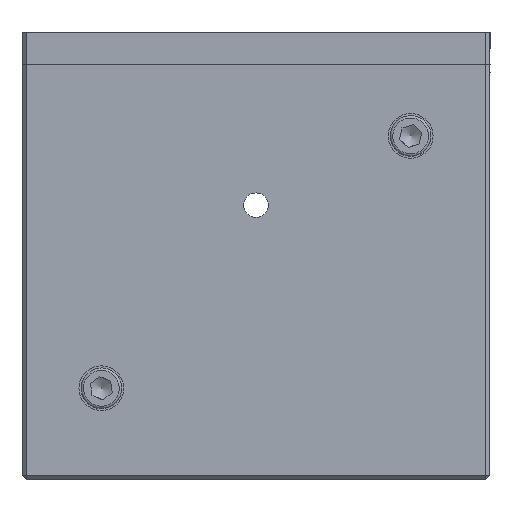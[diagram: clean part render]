
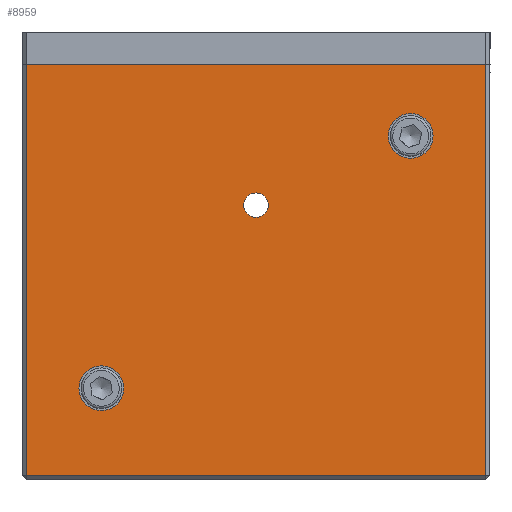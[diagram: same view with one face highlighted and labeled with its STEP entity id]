
A CAD part, front view. The second image highlights one B-rep face of the part: STEP entity #8959.
In plain terms, the highlighted free-form (B-spline) face has degree [1, 1] with [2, 2] control points.
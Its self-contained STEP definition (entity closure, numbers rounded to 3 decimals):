
#7239=CARTESIAN_POINT('',(45.,90.,19.5));
#7240=VERTEX_POINT('',#7239);
#7241=CARTESIAN_POINT('',(45.,84.5,19.5));
#7242=DIRECTION('',(-1.0,0.0,0.0));
#7243=DIRECTION('',(0.0,1.0,0.0));
#7244=AXIS2_PLACEMENT_3D('',#7241,#7242,#7243);
#7245=CIRCLE('',#7244,5.5);
#7246=EDGE_CURVE('',#7240,#7240,#7245,.T.);
#7308=CARTESIAN_POINT('',(45.0,28.,95.5));
#7309=VERTEX_POINT('',#7308);
#7310=CARTESIAN_POINT('',(45.0,22.5,95.5));
#7311=DIRECTION('',(-1.0,0.0,0.0));
#7312=DIRECTION('',(0.0,1.0,0.0));
#7313=AXIS2_PLACEMENT_3D('',#7310,#7311,#7312);
#7314=CIRCLE('',#7313,5.5);
#7315=EDGE_CURVE('',#7309,#7309,#7314,.T.);
#8748=CARTESIAN_POINT('',(45.,67.5,54.5));
#8749=VERTEX_POINT('',#8748);
#8750=CARTESIAN_POINT('',(45.,67.5,57.5));
#8751=DIRECTION('',(1.0,0.0,0.0));
#8752=DIRECTION('',(0.0,0.0,1.0));
#8753=AXIS2_PLACEMENT_3D('',#8750,#8751,#8752);
#8754=CIRCLE('',#8753,3.);
#8755=EDGE_CURVE('',#8749,#8749,#8754,.T.);
#8770=CARTESIAN_POINT('',(45.0,1.,114.0));
#8771=VERTEX_POINT('',#8770);
#8800=CARTESIAN_POINT('',(45.0,1.,1.0));
#8801=VERTEX_POINT('',#8800);
#8823=CARTESIAN_POINT('',(45.,102.,1.0));
#8824=VERTEX_POINT('',#8823);
#8831=CARTESIAN_POINT('',(45.0,1.,1.0));
#8832=DIRECTION('',(0.0,1.0,0.0));
#8833=VECTOR('',#8832,101.);
#8834=LINE('',#8831,#8833);
#8835=EDGE_CURVE('',#8801,#8824,#8834,.T.);
#8872=CARTESIAN_POINT('',(45.0,1.,114.0));
#8873=DIRECTION('',(0.0,0.0,-1.0));
#8874=VECTOR('',#8873,113.0);
#8875=LINE('',#8872,#8874);
#8876=EDGE_CURVE('',#8771,#8801,#8875,.T.);
#8910=CARTESIAN_POINT('',(45.,102.,114.0));
#8911=VERTEX_POINT('',#8910);
#8925=CARTESIAN_POINT('',(45.,102.,114.0));
#8926=DIRECTION('',(0.0,-1.0,0.0));
#8927=VECTOR('',#8926,101.);
#8928=LINE('',#8925,#8927);
#8929=EDGE_CURVE('',#8911,#8771,#8928,.T.);
#8934=CARTESIAN_POINT('',(45.,102.,1.0));
#8935=CARTESIAN_POINT('',(45.,102.,114.0));
#8936=CARTESIAN_POINT('',(45.0,1.0,1.0));
#8937=CARTESIAN_POINT('',(45.0,1.0,114.0));
#8938=B_SPLINE_SURFACE_WITH_KNOTS('',1,1,((#8934,#8936),(#8935,#8937)),.UNSPECIFIED.,.F.,.F.,.U.,(2,2),(2,2),(0.0,113.0),(0.0,101.),.UNSPECIFIED.);
#8939=ORIENTED_EDGE('',*,*,#8835,.T.);
#8940=CARTESIAN_POINT('',(45.,102.,1.0));
#8941=DIRECTION('',(0.0,0.0,1.0));
#8942=VECTOR('',#8941,113.0);
#8943=LINE('',#8940,#8942);
#8944=EDGE_CURVE('',#8824,#8911,#8943,.T.);
#8945=ORIENTED_EDGE('',*,*,#8944,.T.);
#8946=ORIENTED_EDGE('',*,*,#8929,.T.);
#8947=ORIENTED_EDGE('',*,*,#8876,.T.);
#8948=EDGE_LOOP('',(#8939,#8945,#8946,#8947));
#8949=FACE_OUTER_BOUND('',#8948,.T.);
#8950=ORIENTED_EDGE('',*,*,#7246,.T.);
#8951=EDGE_LOOP('',(#8950));
#8952=FACE_BOUND('',#8951,.T.);
#8953=ORIENTED_EDGE('',*,*,#7315,.T.);
#8954=EDGE_LOOP('',(#8953));
#8955=FACE_BOUND('',#8954,.T.);
#8956=ORIENTED_EDGE('',*,*,#8755,.F.);
#8957=EDGE_LOOP('',(#8956));
#8958=FACE_BOUND('',#8957,.T.);
#8959=ADVANCED_FACE('',(#8949,#8952,#8955,#8958),#8938,.T.);
